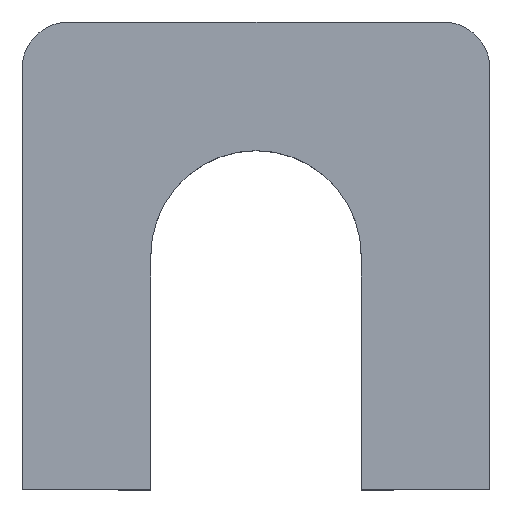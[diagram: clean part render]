
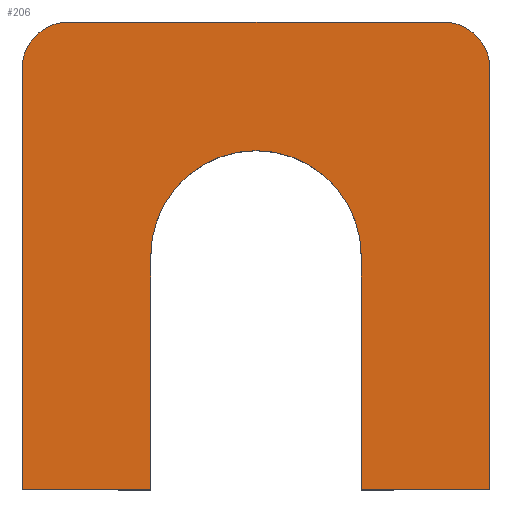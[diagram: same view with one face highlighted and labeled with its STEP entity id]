
A CAD part, top view. The second image highlights one B-rep face of the part: STEP entity #206.
In plain terms, the highlighted planar face has unit normal (0, 0, 1).
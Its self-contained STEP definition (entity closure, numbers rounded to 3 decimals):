
#1 = LINE ( 'NONE', #406, #400 ) ;
#8 = DIRECTION ( 'NONE',  ( 0., 0., 1. ) ) ;
#20 = ORIENTED_EDGE ( 'NONE', *, *, #369, .T. ) ;
#22 = ORIENTED_EDGE ( 'NONE', *, *, #380, .T. ) ;
#29 = ORIENTED_EDGE ( 'NONE', *, *, #373, .T. ) ;
#35 = CARTESIAN_POINT ( 'NONE',  ( -5., 9., 1. ) ) ;
#37 = ORIENTED_EDGE ( 'NONE', *, *, #89, .T. ) ;
#41 = DIRECTION ( 'NONE',  ( 1., 0., 0. ) ) ;
#48 = DIRECTION ( 'NONE',  ( 1., 0., 0. ) ) ;
#49 = EDGE_CURVE ( 'NONE', #396, #86, #183, .T. ) ;
#52 = ORIENTED_EDGE ( 'NONE', *, *, #302, .T. ) ;
#55 = VERTEX_POINT ( 'NONE', #253 ) ;
#56 = CARTESIAN_POINT ( 'NONE',  ( -5., 10., 1. ) ) ;
#59 = EDGE_CURVE ( 'NONE', #250, #389, #154, .T. ) ;
#63 = VERTEX_POINT ( 'NONE', #288 ) ;
#64 = LINE ( 'NONE', #439, #362 ) ;
#65 = LINE ( 'NONE', #197, #73 ) ;
#73 = VECTOR ( 'NONE', #434, 1000. ) ;
#79 = CIRCLE ( 'NONE', #278, 1. ) ;
#86 = VERTEX_POINT ( 'NONE', #179 ) ;
#89 = EDGE_CURVE ( 'NONE', #86, #394, #390, .T. ) ;
#90 = AXIS2_PLACEMENT_3D ( 'NONE', #301, #264, #299 ) ;
#91 = VERTEX_POINT ( 'NONE', #215 ) ;
#96 = CARTESIAN_POINT ( 'NONE',  ( 5., 10., 1. ) ) ;
#105 = DIRECTION ( 'NONE',  ( 1., 0., 0. ) ) ;
#111 = DIRECTION ( 'NONE',  ( 1., 0., 0. ) ) ;
#112 = AXIS2_PLACEMENT_3D ( 'NONE', #146, #144, #41 ) ;
#136 = DIRECTION ( 'NONE',  ( 1., 0., 0. ) ) ;
#138 = CARTESIAN_POINT ( 'NONE',  ( -4., 10., 1. ) ) ;
#144 = DIRECTION ( 'NONE',  ( 0., 0., -1. ) ) ;
#145 = CARTESIAN_POINT ( 'NONE',  ( 2.25, 0., 1. ) ) ;
#146 = CARTESIAN_POINT ( 'NONE',  ( 0., 5., 1. ) ) ;
#147 = VECTOR ( 'NONE', #171, 1000. ) ;
#154 = LINE ( 'NONE', #56, #386 ) ;
#156 = ORIENTED_EDGE ( 'NONE', *, *, #180, .T. ) ;
#165 = ORIENTED_EDGE ( 'NONE', *, *, #49, .T. ) ;
#171 = DIRECTION ( 'NONE',  ( 0., 1., 0. ) ) ;
#177 = DIRECTION ( 'NONE',  ( 0., -1., 0. ) ) ;
#179 = CARTESIAN_POINT ( 'NONE',  ( -5., 0., 1. ) ) ;
#180 = EDGE_CURVE ( 'NONE', #331, #63, #265, .T. ) ;
#183 = LINE ( 'NONE', #319, #327 ) ;
#187 = CARTESIAN_POINT ( 'NONE',  ( -5., 0., 1. ) ) ;
#195 = DIRECTION ( 'NONE',  ( 0., -1., 0. ) ) ;
#197 = CARTESIAN_POINT ( 'NONE',  ( -2.25, 5., 1. ) ) ;
#199 = CARTESIAN_POINT ( 'NONE',  ( -2.25, 0., 1. ) ) ;
#206 = ADVANCED_FACE ( 'NONE', ( #382 ), #235, .T. ) ;
#215 = CARTESIAN_POINT ( 'NONE',  ( 5., 0., 1. ) ) ;
#235 = PLANE ( 'NONE',  #335 ) ;
#246 = VERTEX_POINT ( 'NONE', #145 ) ;
#250 = VERTEX_POINT ( 'NONE', #273 ) ;
#253 = CARTESIAN_POINT ( 'NONE',  ( 5., 9., 1. ) ) ;
#264 = DIRECTION ( 'NONE',  ( 0., 0., 1. ) ) ;
#265 = CIRCLE ( 'NONE', #112, 2.25 ) ;
#269 = CARTESIAN_POINT ( 'NONE',  ( -4., 9., 1. ) ) ;
#273 = CARTESIAN_POINT ( 'NONE',  ( 4., 10., 1. ) ) ;
#278 = AXIS2_PLACEMENT_3D ( 'NONE', #269, #332, #136 ) ;
#287 = EDGE_LOOP ( 'NONE', ( #356, #22, #165, #37, #294, #156, #29, #366, #52, #20 ) ) ;
#288 = CARTESIAN_POINT ( 'NONE',  ( 2.25, 5., 1. ) ) ;
#294 = ORIENTED_EDGE ( 'NONE', *, *, #337, .T. ) ;
#298 = CIRCLE ( 'NONE', #90, 1. ) ;
#299 = DIRECTION ( 'NONE',  ( 1., 0., 0. ) ) ;
#301 = CARTESIAN_POINT ( 'NONE',  ( 4., 9., 1. ) ) ;
#302 = EDGE_CURVE ( 'NONE', #91, #55, #399, .T. ) ;
#307 = CARTESIAN_POINT ( 'NONE',  ( 0., 5., 1. ) ) ;
#319 = CARTESIAN_POINT ( 'NONE',  ( -5., 0., 1. ) ) ;
#327 = VECTOR ( 'NONE', #177, 1000. ) ;
#331 = VERTEX_POINT ( 'NONE', #340 ) ;
#332 = DIRECTION ( 'NONE',  ( 0., 0., 1. ) ) ;
#335 = AXIS2_PLACEMENT_3D ( 'NONE', #307, #8, #111 ) ;
#337 = EDGE_CURVE ( 'NONE', #394, #331, #65, .T. ) ;
#340 = CARTESIAN_POINT ( 'NONE',  ( -2.25, 5., 1. ) ) ;
#349 = VECTOR ( 'NONE', #48, 1000. ) ;
#356 = ORIENTED_EDGE ( 'NONE', *, *, #59, .T. ) ;
#362 = VECTOR ( 'NONE', #195, 1000. ) ;
#366 = ORIENTED_EDGE ( 'NONE', *, *, #397, .T. ) ;
#369 = EDGE_CURVE ( 'NONE', #55, #250, #298, .T. ) ;
#373 = EDGE_CURVE ( 'NONE', #63, #246, #64, .T. ) ;
#380 = EDGE_CURVE ( 'NONE', #389, #396, #79, .T. ) ;
#382 = FACE_OUTER_BOUND ( 'NONE', #287, .T. ) ;
#386 = VECTOR ( 'NONE', #395, 1000. ) ;
#389 = VERTEX_POINT ( 'NONE', #138 ) ;
#390 = LINE ( 'NONE', #187, #349 ) ;
#394 = VERTEX_POINT ( 'NONE', #199 ) ;
#395 = DIRECTION ( 'NONE',  ( -1., 0., 0. ) ) ;
#396 = VERTEX_POINT ( 'NONE', #35 ) ;
#397 = EDGE_CURVE ( 'NONE', #246, #91, #1, .T. ) ;
#399 = LINE ( 'NONE', #96, #147 ) ;
#400 = VECTOR ( 'NONE', #105, 1000. ) ;
#406 = CARTESIAN_POINT ( 'NONE',  ( 5., 0., 1. ) ) ;
#434 = DIRECTION ( 'NONE',  ( 0., 1., 0. ) ) ;
#439 = CARTESIAN_POINT ( 'NONE',  ( 2.25, 5., 1. ) ) ;
